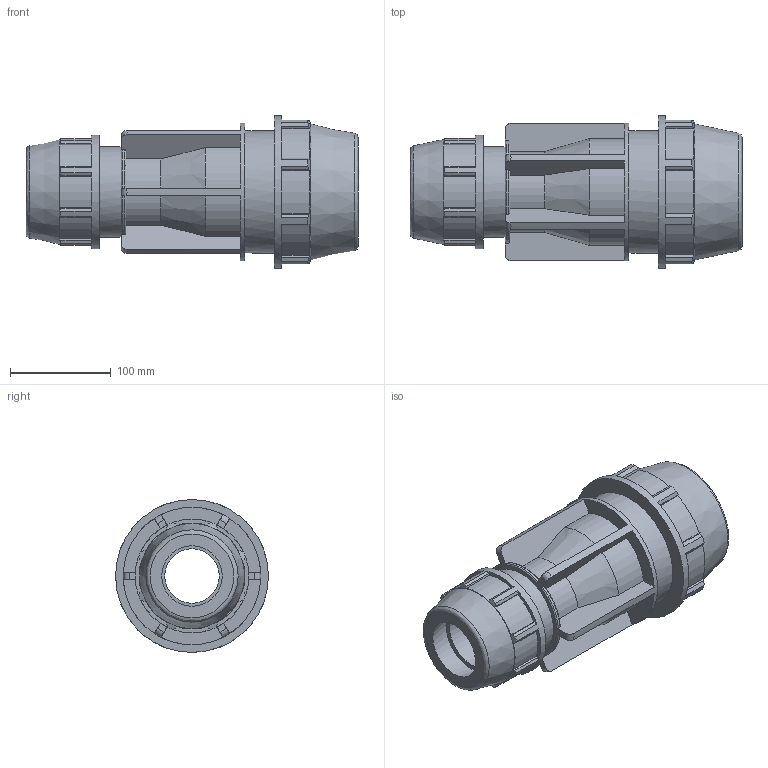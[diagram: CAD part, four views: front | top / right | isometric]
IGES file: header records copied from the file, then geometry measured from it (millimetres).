
Global section: file name: 0711M0 3-2 custom.ipt; native system: Autodesk Inventor 2019; preprocessor: unknown; author: KIM; date: 20210826.124634; units: inch
Bounding box: 330 x 151.89 x 151.89 mm (x, y, z)
Volume: 1778523.5 mm3; surface area: 268160.1 mm2
Topology: 1 solids, 1 shells, 218 faces, 641 edges, 432 vertices
Faces by surface type: plane 143, cylinder 45, revolution 20, cone 10
Full cylindrical faces by diameter (mm): 90.424 x1, 113.03 x1, 121.514 x1, 136.703 x1, 151.892 x1
